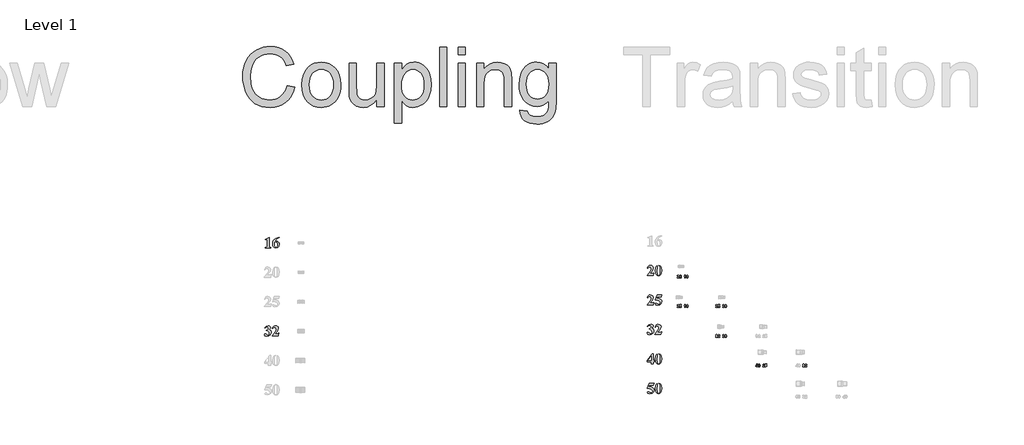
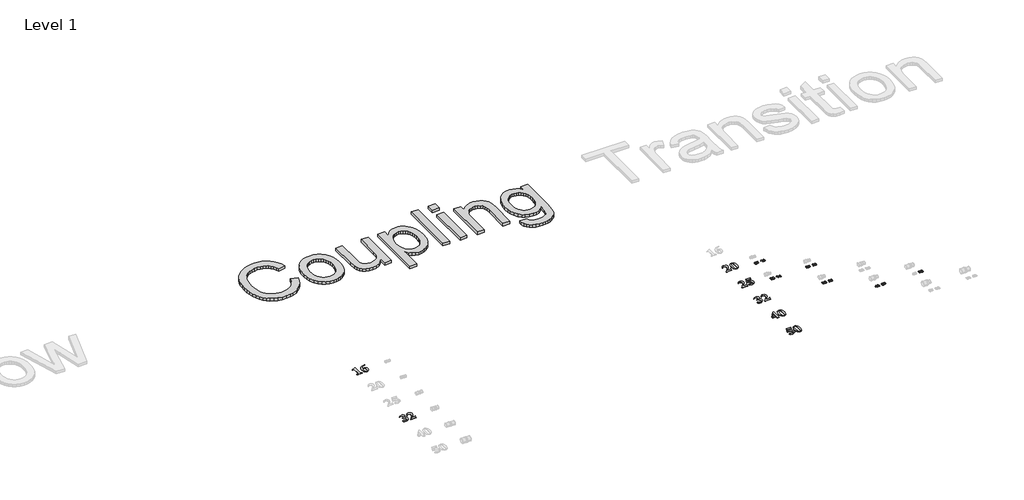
# One storey, part 38 of 57: 19 proxies.
"""IFC4 building model written with IfcOpenShell, lengths in millimetres."""

from ifc_helpers import new_model, si_unit, frame, origin, place, context, project, spatial, polyline, outline, extrude, element, save

model = new_model("IFC4")

# Units and contexts
model_context = context("Model", 3, world=origin())
ifc_project = project(units=[si_unit("LENGTHUNIT", "METRE", prefix="MILLI")], contexts=[model_context])

# Site, building, storey
site = spatial("IfcSite", under=ifc_project)
building = spatial("IfcBuilding", under=site)
storey = spatial("IfcBuildingStorey", under=building, Name="Level 1", Elevation=27.3876384)

# Proxies
placement = place(None, origin())
element("IfcBuildingElementProxy", 1, Name="100mm Arial", ObjectType="100mm Arial", at=placement, inside=storey, context=model_context, shape_type="SweptSolid", body=[
    extrude(outline(polyline([(21088.8058204, 30250.6719885), (21088.8058204, 30166.9155264), (21089.6646513, 30155.2190674), (21093.277194, 30151.0748674), (21102.0836189, 30149.4662635), (21104.510157, 30149.4662635), (21104.510157, 30145.9764109), (21048.6725157, 30145.9764109), (21048.6725157, 30149.4662635), (21051.4807564, 30149.4662635), (21061.1869089, 30150.9385451), (21065.0993608, 30154.9736871), (21066.1217786, 30166.9155264), (21066.1217786, 30219.2633152), (21065.4674312, 30227.9197855), (21063.0408931, 30230.9052453), (21058.9512221, 30232.1594111), (21049.9812104, 30229.732873), (21048.6725157, 30233.2227255), (21086.3247533, 30250.6719885), (21088.8058204, 30250.6719885)])), frame((0.0, 0.0, 27.3876384), z_axis=(0.0, 0.0, 1.0), x_axis=(1.0, 0.0, 0.0)), (0.0, 0.0, 1.0), 2.0),
    extrude(outline(polyline([(21190.0115453, 30250.6719885), (21190.0115453, 30248.9270622), (21167.9954831, 30239.8479926), (21154.8812715, 30226.3520783), (21147.424438, 30206.694393), (21152.9863906, 30209.229989), (21162.9651878, 30210.5386837), (21173.5881082, 30208.4836241), (21182.2820671, 30202.318445), (21188.0791758, 30192.6088845), (21190.0115453, 30179.9206802), (21185.7719197, 30161.6262186), (21173.748287, 30148.7710194), (21157.103326, 30144.2314846), (21139.299625, 30149.4117346), (21126.5398515, 30164.584414), (21121.9594199, 30186.300567), (21124.0621924, 30202.9284876), (21130.37051, 30218.2954264), (21140.5469746, 30231.5323282), (21154.2541886, 30241.7701379), (21170.9298221, 30248.3647324), (21190.0115453, 30250.6719885)]), holes=[polyline([(21146.388388, 30201.0779115), (21144.6434617, 30185.8915999), (21146.8382518, 30165.8385797), (21152.8500682, 30152.2472398), (21159.3117484, 30149.4662635), (21166.08697, 30153.4877733), (21169.0724298, 30169.8328251), (21167.7501029, 30187.3502492), (21163.783122, 30198.4605221), (21154.5949945, 30203.5589786), (21146.388388, 30201.0779115)])]), frame((0.0, 0.0, 27.3876384), z_axis=(0.0, 0.0, 1.0), x_axis=(1.0, 0.0, 0.0)), (0.0, 0.0, 1.0), 2.0),
])
element("IfcBuildingElementProxy", 2, Name="100mm Arial", ObjectType="100mm Arial", at=placement, inside=storey, context=model_context, shape_type="SweptSolid", body=[
    extrude(outline(polyline([(21059.1420734, 29301.5464668), (21059.1420734, 29303.291393), (21071.5746733, 29308.1035726), (21077.5592251, 29314.8924264), (21080.0811889, 29324.1487151), (21075.3780673, 29335.2862525), (21063.667976, 29339.9348452), (21053.6073853, 29337.5014909), (21045.1826631, 29330.2014282), (21043.4377368, 29331.2102137), (21057.8470109, 29345.5922234), (21077.436535, 29350.4044029), (21087.4869015, 29348.9525697), (21095.6083065, 29344.5970701), (21100.9759997, 29338.2989768), (21102.7652307, 29331.0193624), (21098.7573531, 29321.2450487), (21086.1884309, 29312.9702811), (21102.4107926, 29301.6827891), (21106.6027053, 29294.1237139), (21108.0000096, 29284.8606091), (21105.0077337, 29269.0983355), (21096.0309058, 29255.8921062), (21082.0305988, 29246.9459509), (21063.9678852, 29243.9638991), (21052.3668518, 29245.2453294), (21044.3919934, 29249.0896201), (21039.9478842, 29258.3868055), (21042.5243769, 29265.4619363), (21048.4816644, 29268.3928672), (21053.3347406, 29267.3022883), (21062.1956944, 29260.5679634), (21076.4822784, 29254.4334569), (21086.4065467, 29258.8911983), (21090.5507467, 29270.1923224), (21088.5502159, 29280.2017922), (21082.5486238, 29289.4001439), (21072.6959247, 29296.8331209), (21059.1420734, 29301.5464668)])), frame((0.0, 0.0, 27.3876384), z_axis=(0.0, 0.0, 1.0), x_axis=(1.0, 0.0, 0.0)), (0.0, 0.0, 1.0), 2.0),
    extrude(outline(polyline([(21180.3326573, 29245.7088254), (21118.4695674, 29245.7088254), (21118.4695674, 29247.4537517), (21154.2405563, 29292.05843), (21160.3477984, 29314.4425626), (21155.1266517, 29327.6794644), (21142.3805104, 29332.95514), (21131.3929277, 29330.0242091), (21123.1863212, 29321.2314165), (21120.3780805, 29322.240202), (21125.6367158, 29334.740963), (21133.0696928, 29343.5064912), (21142.2475961, 29348.679925), (21152.7410103, 29350.4044029), (21167.2729746, 29346.8191247), (21177.5653133, 29337.0039143), (21181.2869139, 29325.3210875), (21175.7794903, 29305.1726417), (21163.7763059, 29288.6299225), (21142.871271, 29266.6479409), (21164.8464365, 29266.6479409), (21175.3841554, 29267.2477593), (21179.392033, 29269.2925948), (21183.5226007, 29275.3725724), (21186.5216927, 29275.3725724), (21180.3326573, 29245.7088254)])), frame((0.0, 0.0, 27.3876384), z_axis=(0.0, 0.0, 1.0), x_axis=(1.0, 0.0, 0.0)), (0.0, 0.0, 1.0), 2.0),
])
element("IfcBuildingElementProxy", 3, Name="100mm Arial", ObjectType="100mm Arial", at=placement, inside=storey, context=model_context, shape_type="SweptSolid", body=[
    extrude(outline(polyline([(25001.8109742, 29862.2067064), (24939.9478842, 29862.2067064), (24939.9478842, 29863.9516326), (24975.7188732, 29908.556311), (24981.8261152, 29930.9404436), (24976.6049686, 29944.1773454), (24963.8588273, 29949.453021), (24952.8712446, 29946.5220901), (24944.6646381, 29937.7292974), (24941.8563973, 29938.7380829), (24947.1150326, 29951.238844), (24954.5480097, 29960.0043721), (24963.725913, 29965.1778059), (24974.2193272, 29966.9022839), (24988.7512914, 29963.3170056), (24999.0436301, 29953.5017952), (25002.7652307, 29941.8189684), (24997.2578071, 29921.6705227), (24985.2546227, 29905.1278035), (24964.3495878, 29883.1458219), (24986.3247533, 29883.1458219), (24996.8624723, 29883.7456403), (25000.8703498, 29885.7904758), (25005.0009175, 29891.8704533), (25008.0000096, 29891.8704533), (25001.8109742, 29862.2067064)])), frame((0.0, 0.0, 27.3876384), z_axis=(0.0, 0.0, 1.0), x_axis=(1.0, 0.0, 0.0)), (0.0, 0.0, 1.0), 2.0),
    extrude(outline(polyline([(25090.0115453, 29913.682032), (25085.5674362, 29885.1088639), (25078.4514086, 29871.7765365), (25068.3090246, 29863.5154011), (25055.9582182, 29860.4617801), (25042.1760269, 29864.2242774), (25031.2838698, 29875.0210088), (25025.3129502, 29888.6532455), (25021.9594199, 29912.4823951), (25026.7852317, 29943.0731342), (25031.7746303, 29953.259823), (25038.8361289, 29960.7541451), (25055.9582182, 29966.9022839), (25073.0939396, 29960.8359386), (25084.8040309, 29944.5181513), (25090.0115453, 29913.682032)]), holes=[polyline([(25067.3275035, 29913.682032), (25066.9730654, 29945.0361763), (25062.8561299, 29959.2409669), (25055.9036892, 29961.667505), (25050.0690919, 29959.8407853), (25045.7613051, 29950.5163354), (25044.6434617, 29903.8668216), (25046.3611236, 29874.6938351), (25050.0554597, 29867.5096464), (25056.4217142, 29865.6965589), (25062.8561299, 29868.1230971), (25066.9730654, 29881.1827798), (25067.3275035, 29913.682032)])]), frame((0.0, 0.0, 27.3876384), z_axis=(0.0, 0.0, 1.0), x_axis=(1.0, 0.0, 0.0)), (0.0, 0.0, 1.0), 2.0),
])
element("IfcBuildingElementProxy", 4, Name="100mm Arial", ObjectType="100mm Arial", at=placement, inside=storey, context=model_context, shape_type="SweptSolid", body=[
    extrude(outline(polyline([(25001.8109742, 29561.4467064), (24939.9478842, 29561.4467064), (24939.9478842, 29563.1916326), (24975.7188732, 29607.796311), (24981.8261152, 29630.1804436), (24976.6049686, 29643.4173454), (24963.8588273, 29648.693021), (24952.8712446, 29645.7620901), (24944.6646381, 29636.9692974), (24941.8563973, 29637.9780829), (24947.1150326, 29650.478844), (24954.5480097, 29659.2443721), (24963.725913, 29664.4178059), (24974.2193272, 29666.1422839), (24988.7512914, 29662.5570056), (24999.0436301, 29652.7417952), (25002.7652307, 29641.0589684), (24997.2578071, 29620.9105227), (24985.2546227, 29604.3678035), (24964.3495878, 29582.3858219), (24986.3247533, 29582.3858219), (24996.8624723, 29582.9856403), (25000.8703498, 29585.0304758), (25005.0009175, 29591.1104533), (25008.0000096, 29591.1104533), (25001.8109742, 29561.4467064)])), frame((0.0, 0.0, 27.3876384), z_axis=(0.0, 0.0, 1.0), x_axis=(1.0, 0.0, 0.0)), (0.0, 0.0, 1.0), 2.0),
    extrude(outline(polyline([(25041.1536091, 29664.3973576), (25090.0115453, 29664.3973576), (25083.0318402, 29643.4582421), (25038.7543355, 29643.4582421), (25035.5643921, 29634.7336106), (25059.8570378, 29630.9574811), (25077.8243258, 29621.5921345), (25086.9647404, 29610.3387231), (25090.0115453, 29596.6451414), (25084.3132704, 29577.9417127), (25068.5953015, 29564.2549471), (25046.6065038, 29559.7017801), (25026.7852317, 29564.5003274), (25021.9594199, 29572.2161733), (25024.4813837, 29578.0916673), (25030.3568777, 29580.6408956), (25036.4913842, 29579.3322008), (25047.1245288, 29572.4342891), (25055.3038708, 29567.6630063), (25060.729501, 29566.6814852), (25071.5807614, 29571.2482845), (25076.052135, 29582.222235), (25072.6577081, 29594.2595), (25062.4744273, 29603.8156979), (25047.1177127, 29610.0524462), (25028.2029843, 29612.1313622), (25021.9594199, 29612.0495688), (25041.1536091, 29664.3973576)])), frame((0.0, 0.0, 27.3876384), z_axis=(0.0, 0.0, 1.0), x_axis=(1.0, 0.0, 0.0)), (0.0, 0.0, 1.0), 2.0),
])
element("IfcBuildingElementProxy", 5, Name="100mm Arial", ObjectType="100mm Arial", at=placement, inside=storey, context=model_context, shape_type="SweptSolid", body=[
    extrude(outline(polyline([(24959.1420734, 29316.5343477), (24959.1420734, 29318.279274), (24971.5746733, 29323.0914535), (24977.5592251, 29329.8803074), (24980.0811889, 29339.1365961), (24975.3780673, 29350.2741334), (24963.667976, 29354.9227261), (24953.6073853, 29352.4893719), (24945.1826631, 29345.1893092), (24943.4377368, 29346.1980947), (24957.8470109, 29360.5801043), (24977.436535, 29365.3922839), (24987.4869015, 29363.9404507), (24995.6083065, 29359.5849511), (25000.9759997, 29353.2868577), (25002.7652307, 29346.0072434), (24998.7573531, 29336.2329297), (24986.1884309, 29327.958162), (25002.4107926, 29316.6706701), (25006.6027053, 29309.1115948), (25008.0000096, 29299.84849), (25005.0077337, 29284.0862164), (24996.0309058, 29270.8799871), (24982.0305988, 29261.9338318), (24963.9678852, 29258.9517801), (24952.3668518, 29260.2332103), (24944.3919934, 29264.077501), (24939.9478842, 29273.3746864), (24942.5243769, 29280.4498173), (24948.4816644, 29283.3807482), (24953.3347406, 29282.2901692), (24962.1956944, 29275.5558443), (24976.4822784, 29269.4213378), (24986.4065467, 29273.8790792), (24990.5507467, 29285.1802034), (24988.5502159, 29295.1896732), (24982.5486238, 29304.3880248), (24972.6959247, 29311.8210019), (24959.1420734, 29316.5343477)])), frame((0.0, 0.0, 27.3876384), z_axis=(0.0, 0.0, 1.0), x_axis=(1.0, 0.0, 0.0)), (0.0, 0.0, 1.0), 2.0),
    extrude(outline(polyline([(25080.3326573, 29260.6967064), (25018.4695674, 29260.6967064), (25018.4695674, 29262.4416326), (25054.2405563, 29307.046311), (25060.3477984, 29329.4304436), (25055.1266517, 29342.6673454), (25042.3805104, 29347.943021), (25031.3929277, 29345.0120901), (25023.1863212, 29336.2192974), (25020.3780805, 29337.2280829), (25025.6367158, 29349.728844), (25033.0696928, 29358.4943721), (25042.2475961, 29363.6678059), (25052.7410103, 29365.3922839), (25067.2729746, 29361.8070056), (25077.5653133, 29351.9917952), (25081.2869139, 29340.3089684), (25075.7794903, 29320.1605227), (25063.7763059, 29303.6178035), (25042.871271, 29281.6358219), (25064.8464365, 29281.6358219), (25075.3841554, 29282.2356403), (25079.392033, 29284.2804758), (25083.5226007, 29290.3604533), (25086.5216927, 29290.3604533), (25080.3326573, 29260.6967064)])), frame((0.0, 0.0, 27.3876384), z_axis=(0.0, 0.0, 1.0), x_axis=(1.0, 0.0, 0.0)), (0.0, 0.0, 1.0), 2.0),
])
element("IfcBuildingElementProxy", 6, Name="100mm Arial", ObjectType="100mm Arial", at=placement, inside=storey, context=model_context, shape_type="SweptSolid", body=[
    extrude(outline(polyline([(24943.4377368, 28998.5950848), (24992.7046401, 29064.9022839), (25002.7652307, 29064.9022839), (25002.7652307, 28998.5950848), (25011.4898622, 28998.5950848), (25011.4898622, 28982.8907482), (25002.7652307, 28982.8907482), (25002.7652307, 28960.2067064), (24980.0811889, 28960.2067064), (24980.0811889, 28982.8907482), (24943.4377368, 28982.8907482), (24943.4377368, 28998.5950848)]), holes=[polyline([(24948.7270446, 28998.5950848), (24980.0811889, 28998.5950848), (24980.0811889, 29040.773225), (24948.7270446, 28998.5950848)])]), frame((0.0, 0.0, 27.3876384), z_axis=(0.0, 0.0, 1.0), x_axis=(1.0, 0.0, 0.0)), (0.0, 0.0, 1.0), 2.0),
    extrude(outline(polyline([(25090.0115453, 29011.682032), (25085.5674362, 28983.1088639), (25078.4514086, 28969.7765365), (25068.3090246, 28961.5154011), (25055.9582182, 28958.4617801), (25042.1760269, 28962.2242774), (25031.2838698, 28973.0210088), (25025.3129502, 28986.6532455), (25021.9594199, 29010.4823951), (25026.7852317, 29041.0731342), (25031.7746303, 29051.259823), (25038.8361289, 29058.7541451), (25055.9582182, 29064.9022839), (25073.0939396, 29058.8359386), (25084.8040309, 29042.5181513), (25090.0115453, 29011.682032)]), holes=[polyline([(25067.3275035, 29011.682032), (25066.9730654, 29043.0361763), (25062.8561299, 29057.2409669), (25055.9036892, 29059.667505), (25050.0690919, 29057.8407853), (25045.7613051, 29048.5163354), (25044.6434617, 29001.8668216), (25046.3611236, 28972.6938351), (25050.0554597, 28965.5096464), (25056.4217142, 28963.6965589), (25062.8561299, 28966.1230971), (25066.9730654, 28979.1827798), (25067.3275035, 29011.682032)])]), frame((0.0, 0.0, 27.3876384), z_axis=(0.0, 0.0, 1.0), x_axis=(1.0, 0.0, 0.0)), (0.0, 0.0, 1.0), 2.0),
])
element("IfcBuildingElementProxy", 7, Name="100mm Arial", ObjectType="100mm Arial", at=placement, inside=storey, context=model_context, shape_type="SweptSolid", body=[
    extrude(outline(polyline([(24962.631926, 28762.3973576), (25011.4898622, 28762.3973576), (25004.510157, 28741.4582421), (24960.2326524, 28741.4582421), (24957.042709, 28732.7336106), (24981.3353547, 28728.9574811), (24999.3026426, 28719.5921345), (25008.4430573, 28708.3387231), (25011.4898622, 28694.6451414), (25005.7915873, 28675.9417127), (24990.0736184, 28662.2549471), (24968.0848207, 28657.7017801), (24948.2635486, 28662.5003274), (24943.4377368, 28670.2161733), (24945.9597006, 28676.0916673), (24951.8351946, 28678.6408956), (24957.9697011, 28677.3322008), (24968.6028457, 28670.4342891), (24976.7821877, 28665.6630063), (24982.2078178, 28664.6814852), (24993.0590782, 28669.2482845), (24997.5304518, 28680.222235), (24994.1360249, 28692.2595), (24983.9527441, 28701.8156979), (24968.5960295, 28708.0524462), (24949.6813012, 28710.1313622), (24943.4377368, 28710.0495688), (24962.631926, 28762.3973576)])), frame((0.0, 0.0, 27.3876384), z_axis=(0.0, 0.0, 1.0), x_axis=(1.0, 0.0, 0.0)), (0.0, 0.0, 1.0), 2.0),
    extrude(outline(polyline([(25090.0115453, 28710.922032), (25085.5674362, 28682.3488639), (25078.4514086, 28669.0165365), (25068.3090246, 28660.7554011), (25055.9582182, 28657.7017801), (25042.1760269, 28661.4642774), (25031.2838698, 28672.2610088), (25025.3129502, 28685.8932455), (25021.9594199, 28709.7223951), (25026.7852317, 28740.3131342), (25031.7746303, 28750.499823), (25038.8361289, 28757.9941451), (25055.9582182, 28764.1422839), (25073.0939396, 28758.0759386), (25084.8040309, 28741.7581513), (25090.0115453, 28710.922032)]), holes=[polyline([(25067.3275035, 28710.922032), (25066.9730654, 28742.2761763), (25062.8561299, 28756.4809669), (25055.9036892, 28758.907505), (25050.0690919, 28757.0807853), (25045.7613051, 28747.7563354), (25044.6434617, 28701.1068216), (25046.3611236, 28671.9338351), (25050.0554597, 28664.7496464), (25056.4217142, 28662.9365589), (25062.8561299, 28665.3630971), (25066.9730654, 28678.4227798), (25067.3275035, 28710.922032)])]), frame((0.0, 0.0, 27.3876384), z_axis=(0.0, 0.0, 1.0), x_axis=(1.0, 0.0, 0.0)), (0.0, 0.0, 1.0), 2.0),
])
element("IfcBuildingElementProxy", 8, Name="30mm Arial", ObjectType="30mm Arial", at=placement, inside=storey, context=model_context, shape_type="SweptSolid", body=[
    extrude(outline(polyline([(25330.2414218, 29837.5683057), (25324.4113681, 29837.5683057), (25324.4113681, 29859.4461896), (25317.1238009, 29854.5726291), (25317.1238009, 29860.4026828), (25321.9897702, 29863.2607755), (25325.5955977, 29868.1760877), (25330.2414218, 29868.1760877), (25330.2414218, 29837.5683057)])), frame((0.0, 0.0, 27.3876384), z_axis=(0.0, 0.0, 1.0), x_axis=(1.0, 0.0, 0.0)), (0.0, 0.0, 1.0), 2.0),
    extrude(outline(polyline([(25357.9341769, 29860.0534869), (25352.1041232, 29859.4310072), (25351.0717179, 29862.0006337), (25348.9006302, 29862.8318718), (25345.9096911, 29861.2187385), (25344.3686743, 29854.4435784), (25349.6977078, 29857.0018181), (25355.8579794, 29854.2689805), (25358.4200147, 29847.216741), (25355.8010453, 29839.8570573), (25349.0676369, 29837.0824679), (25341.825617, 29840.6655218), (25338.9865024, 29852.4091326), (25341.9508721, 29864.4791657), (25349.6521605, 29868.1760877), (25355.1557919, 29866.0960946), (25357.9341769, 29860.0534869)]), holes=[polyline([(25344.8165561, 29847.3457917), (25346.0766979, 29843.7058037), (25348.9537687, 29842.4266838), (25351.5499645, 29843.4742716), (25352.589961, 29846.9130924), (25351.4702567, 29850.5151243), (25348.6728937, 29851.6576022), (25345.9362604, 29850.5644672), (25344.8165561, 29847.3457917)])]), frame((0.0, 0.0, 27.3876384), z_axis=(0.0, 0.0, 1.0), x_axis=(1.0, 0.0, 0.0)), (0.0, 0.0, 1.0), 2.0),
])
element("IfcBuildingElementProxy", 9, Name="30mm Arial", ObjectType="30mm Arial", at=placement, inside=storey, context=model_context, shape_type="SweptSolid", body=[
    extrude(outline(polyline([(25265.0997999, 29843.3983595), (25265.0997999, 29837.5683057), (25245.6662875, 29837.5683057), (25247.5261354, 29843.2882868), (25253.6370641, 29850.4581901), (25258.1462462, 29855.3469331), (25259.2697462, 29858.8540748), (25258.3246398, 29861.8032621), (25255.7170572, 29862.8318718), (25253.105679, 29861.8184445), (25251.982179, 29858.4593316), (25246.1521253, 29858.9907167), (25249.2797062, 29866.0391605), (25255.8461078, 29868.1760877), (25262.6326547, 29865.7810592), (25265.0997999, 29859.8257504), (25264.4241817, 29855.9694128), (25262.2834588, 29852.1358488), (25258.6586533, 29848.3098761), (25255.3299052, 29844.9925148), (25254.2367701, 29843.3983595), (25265.0997999, 29843.3983595)])), frame((0.0, 0.0, 27.3876384), z_axis=(0.0, 0.0, 1.0), x_axis=(1.0, 0.0, 0.0)), (0.0, 0.0, 1.0), 2.0),
    extrude(outline(polyline([(25278.7032585, 29868.1760877), (25285.4973967, 29865.018142), (25288.4200147, 29852.6216866), (25285.4822142, 29840.1948664), (25278.7032585, 29837.0824679), (25271.6624059, 29840.498515), (25268.9865024, 29852.6824164), (25271.9243029, 29865.0636893), (25278.7032585, 29868.1760877)]), holes=[polyline([(25278.7032585, 29862.8318718), (25276.7599073, 29862.1904141), (25275.4390358, 29859.8864801), (25274.8165561, 29852.6216866), (25275.3707148, 29845.6036076), (25276.7712941, 29843.0605504), (25278.7032585, 29842.4266838), (25280.6466098, 29843.0681416), (25281.9674813, 29845.3720756), (25282.589961, 29852.6216866), (25282.0358023, 29859.63597), (25280.635223, 29862.1904141), (25278.7032585, 29862.8318718)])]), frame((0.0, 0.0, 27.3876384), z_axis=(0.0, 0.0, 1.0), x_axis=(1.0, 0.0, 0.0)), (0.0, 0.0, 1.0), 2.0),
])
element("IfcBuildingElementProxy", 10, Name="30mm Arial", ObjectType="30mm Arial", at=placement, inside=storey, context=model_context, shape_type="SweptSolid", body=[
    extrude(outline(polyline([(25330.2414218, 29536.8083057), (25324.4113681, 29536.8083057), (25324.4113681, 29558.6861896), (25317.1238009, 29553.8126291), (25317.1238009, 29559.6426828), (25321.9897702, 29562.5007755), (25325.5955977, 29567.4160877), (25330.2414218, 29567.4160877), (25330.2414218, 29536.8083057)])), frame((0.0, 0.0, 27.3876384), z_axis=(0.0, 0.0, 1.0), x_axis=(1.0, 0.0, 0.0)), (0.0, 0.0, 1.0), 2.0),
    extrude(outline(polyline([(25357.9341769, 29559.2934869), (25352.1041232, 29558.6710072), (25351.0717179, 29561.2406337), (25348.9006302, 29562.0718718), (25345.9096911, 29560.4587385), (25344.3686743, 29553.6835784), (25349.6977078, 29556.2418181), (25355.8579794, 29553.5089805), (25358.4200147, 29546.456741), (25355.8010453, 29539.0970573), (25349.0676369, 29536.3224679), (25341.825617, 29539.9055218), (25338.9865024, 29551.6491326), (25341.9508721, 29563.7191657), (25349.6521605, 29567.4160877), (25355.1557919, 29565.3360946), (25357.9341769, 29559.2934869)]), holes=[polyline([(25344.8165561, 29546.5857917), (25346.0766979, 29542.9458037), (25348.9537687, 29541.6666838), (25351.5499645, 29542.7142716), (25352.589961, 29546.1530924), (25351.4702567, 29549.7551243), (25348.6728937, 29550.8976022), (25345.9362604, 29549.8044672), (25344.8165561, 29546.5857917)])]), frame((0.0, 0.0, 27.3876384), z_axis=(0.0, 0.0, 1.0), x_axis=(1.0, 0.0, 0.0)), (0.0, 0.0, 1.0), 2.0),
])
element("IfcBuildingElementProxy", 11, Name="30mm Arial", ObjectType="30mm Arial", at=placement, inside=storey, context=model_context, shape_type="SweptSolid", body=[
    extrude(outline(polyline([(25265.0997999, 29542.6383595), (25265.0997999, 29536.8083057), (25245.6662875, 29536.8083057), (25247.5261354, 29542.5282868), (25253.6370641, 29549.6981901), (25258.1462462, 29554.5869331), (25259.2697462, 29558.0940748), (25258.3246398, 29561.0432621), (25255.7170572, 29562.0718718), (25253.105679, 29561.0584445), (25251.982179, 29557.6993316), (25246.1521253, 29558.2307167), (25249.2797062, 29565.2791605), (25255.8461078, 29567.4160877), (25262.6326547, 29565.0210592), (25265.0997999, 29559.0657504), (25264.4241817, 29555.2094128), (25262.2834588, 29551.3758488), (25258.6586533, 29547.5498761), (25255.3299052, 29544.2325148), (25254.2367701, 29542.6383595), (25265.0997999, 29542.6383595)])), frame((0.0, 0.0, 27.3876384), z_axis=(0.0, 0.0, 1.0), x_axis=(1.0, 0.0, 0.0)), (0.0, 0.0, 1.0), 2.0),
    extrude(outline(polyline([(25268.9865024, 29545.4243357), (25274.3307183, 29546.0392241), (25275.8185965, 29542.8433223), (25278.6728937, 29541.6666838), (25281.796679, 29542.9154388), (25283.0757988, 29546.6768863), (25281.8877736, 29550.2068016), (25278.7943531, 29551.38344), (25274.5280899, 29548.954251), (25269.4723402, 29549.7057813), (25272.8732048, 29566.9302499), (25287.4483391, 29566.9302499), (25287.4483391, 29561.1001962), (25277.5873498, 29561.1001962), (25276.4107114, 29555.5358351), (25280.1683632, 29556.7276559), (25286.3627953, 29553.968249), (25288.9058525, 29546.8059369), (25286.7879033, 29540.2547177), (25278.7639883, 29536.3224679), (25272.0799228, 29538.7896131), (25268.9865024, 29545.4243357)])), frame((0.0, 0.0, 27.3876384), z_axis=(0.0, 0.0, 1.0), x_axis=(1.0, 0.0, 0.0)), (0.0, 0.0, 1.0), 2.0),
])
element("IfcBuildingElementProxy", 12, Name="30mm Arial", ObjectType="30mm Arial", at=placement, inside=storey, context=model_context, shape_type="SweptSolid", body=[
    extrude(outline(polyline([(25727.5383234, 29542.6383595), (25727.5383234, 29536.8083057), (25708.104811, 29536.8083057), (25709.9646589, 29542.5282868), (25716.0755876, 29549.6981901), (25720.5847698, 29554.5869331), (25721.7082697, 29558.0940748), (25720.7631634, 29561.0432621), (25718.1555807, 29562.0718718), (25715.5442025, 29561.0584445), (25714.4207026, 29557.6993316), (25708.5906489, 29558.2307167), (25711.7182298, 29565.2791605), (25718.2846314, 29567.4160877), (25725.0711783, 29565.0210592), (25727.5383234, 29559.0657504), (25726.8627052, 29555.2094128), (25724.7219824, 29551.3758488), (25721.0971768, 29547.5498761), (25717.7684287, 29544.2325148), (25716.6752937, 29542.6383595), (25727.5383234, 29542.6383595)])), frame((0.0, 0.0, 27.3876384), z_axis=(0.0, 0.0, 1.0), x_axis=(1.0, 0.0, 0.0)), (0.0, 0.0, 1.0), 2.0),
    extrude(outline(polyline([(25741.1417821, 29567.4160877), (25747.9359202, 29564.258142), (25750.8585383, 29551.8616866), (25747.9207378, 29539.4348664), (25741.1417821, 29536.3224679), (25734.1009295, 29539.738515), (25731.4250259, 29551.9224164), (25734.3628264, 29564.3036893), (25741.1417821, 29567.4160877)]), holes=[polyline([(25741.1417821, 29562.0718718), (25739.1984309, 29561.4304141), (25737.8775593, 29559.1264801), (25737.2550796, 29551.8616866), (25737.8092384, 29544.8436076), (25739.2098177, 29542.3005504), (25741.1417821, 29541.6666838), (25743.0851333, 29542.3081416), (25744.4060049, 29544.6120756), (25745.0284846, 29551.8616866), (25744.4743258, 29558.87597), (25743.0737465, 29561.4304141), (25741.1417821, 29562.0718718)])]), frame((0.0, 0.0, 27.3876384), z_axis=(0.0, 0.0, 1.0), x_axis=(1.0, 0.0, 0.0)), (0.0, 0.0, 1.0), 2.0),
])
element("IfcBuildingElementProxy", 13, Name="30mm Arial", ObjectType="30mm Arial", at=placement, inside=storey, context=model_context, shape_type="SweptSolid", body=[
    extrude(outline(polyline([(25657.5383234, 29542.6383595), (25657.5383234, 29536.8083057), (25638.104811, 29536.8083057), (25639.9646589, 29542.5282868), (25646.0755876, 29549.6981901), (25650.5847698, 29554.5869331), (25651.7082697, 29558.0940748), (25650.7631634, 29561.0432621), (25648.1555807, 29562.0718718), (25645.5442025, 29561.0584445), (25644.4207026, 29557.6993316), (25638.5906489, 29558.2307167), (25641.7182298, 29565.2791605), (25648.2846314, 29567.4160877), (25655.0711783, 29565.0210592), (25657.5383234, 29559.0657504), (25656.8627052, 29555.2094128), (25654.7219824, 29551.3758488), (25651.0971768, 29547.5498761), (25647.7684287, 29544.2325148), (25646.6752937, 29542.6383595), (25657.5383234, 29542.6383595)])), frame((0.0, 0.0, 27.3876384), z_axis=(0.0, 0.0, 1.0), x_axis=(1.0, 0.0, 0.0)), (0.0, 0.0, 1.0), 2.0),
    extrude(outline(polyline([(25661.4250259, 29545.4243357), (25666.7692418, 29546.0392241), (25668.2571201, 29542.8433223), (25671.1114172, 29541.6666838), (25674.2352025, 29542.9154388), (25675.5143224, 29546.6768863), (25674.3262971, 29550.2068016), (25671.2328767, 29551.38344), (25666.9666134, 29548.954251), (25661.9108637, 29549.7057813), (25665.3117284, 29566.9302499), (25679.8868627, 29566.9302499), (25679.8868627, 29561.1001962), (25670.0258734, 29561.1001962), (25668.8492349, 29555.5358351), (25672.6068867, 29556.7276559), (25678.8013188, 29553.968249), (25681.3443761, 29546.8059369), (25679.2264269, 29540.2547177), (25671.2025118, 29536.3224679), (25664.5184463, 29538.7896131), (25661.4250259, 29545.4243357)])), frame((0.0, 0.0, 27.3876384), z_axis=(0.0, 0.0, 1.0), x_axis=(1.0, 0.0, 0.0)), (0.0, 0.0, 1.0), 2.0),
])
element("IfcBuildingElementProxy", 14, Name="30mm Arial", ObjectType="30mm Arial", at=placement, inside=storey, context=model_context, shape_type="SweptSolid", body=[
    extrude(outline(polyline([(25727.5383234, 29236.8883595), (25727.5383234, 29231.0583057), (25708.104811, 29231.0583057), (25709.9646589, 29236.7782868), (25716.0755876, 29243.9481901), (25720.5847698, 29248.8369331), (25721.7082697, 29252.3440748), (25720.7631634, 29255.2932621), (25718.1555807, 29256.3218718), (25715.5442025, 29255.3084445), (25714.4207026, 29251.9493316), (25708.5906489, 29252.4807167), (25711.7182298, 29259.5291605), (25718.2846314, 29261.6660877), (25725.0711783, 29259.2710592), (25727.5383234, 29253.3157504), (25726.8627052, 29249.4594128), (25724.7219824, 29245.6258488), (25721.0971768, 29241.7998761), (25717.7684287, 29238.4825148), (25716.6752937, 29236.8883595), (25727.5383234, 29236.8883595)])), frame((0.0, 0.0, 27.3876384), z_axis=(0.0, 0.0, 1.0), x_axis=(1.0, 0.0, 0.0)), (0.0, 0.0, 1.0), 2.0),
    extrude(outline(polyline([(25741.1417821, 29261.6660877), (25747.9359202, 29258.508142), (25750.8585383, 29246.1116866), (25747.9207378, 29233.6848664), (25741.1417821, 29230.5724679), (25734.1009295, 29233.988515), (25731.4250259, 29246.1724164), (25734.3628264, 29258.5536893), (25741.1417821, 29261.6660877)]), holes=[polyline([(25741.1417821, 29256.3218718), (25739.1984309, 29255.6804141), (25737.8775593, 29253.3764801), (25737.2550796, 29246.1116866), (25737.8092384, 29239.0936076), (25739.2098177, 29236.5505504), (25741.1417821, 29235.9166838), (25743.0851333, 29236.5581416), (25744.4060049, 29238.8620756), (25745.0284846, 29246.1116866), (25744.4743258, 29253.12597), (25743.0737465, 29255.6804141), (25741.1417821, 29256.3218718)])]), frame((0.0, 0.0, 27.3876384), z_axis=(0.0, 0.0, 1.0), x_axis=(1.0, 0.0, 0.0)), (0.0, 0.0, 1.0), 2.0),
])
element("IfcBuildingElementProxy", 15, Name="30mm Arial", ObjectType="30mm Arial", at=placement, inside=storey, context=model_context, shape_type="SweptSolid", body=[
    extrude(outline(polyline([(25638.104811, 29239.6136059), (25643.9348648, 29240.2892241), (25645.2481451, 29237.0401838), (25647.8367497, 29235.9166838), (25650.592361, 29237.2033949), (25651.7082697, 29240.6687849), (25650.6872512, 29243.9405989), (25648.1935368, 29245.1476022), (25645.878216, 29244.7149029), (25646.3868275, 29249.5201425), (25649.2601026, 29250.4766357), (25650.2507563, 29253.1791085), (25649.5106127, 29255.4678601), (25647.5406923, 29256.3218718), (25645.4644947, 29255.3312182), (25644.4207026, 29252.4351694), (25638.5906489, 29253.3081592), (25640.196191, 29257.9425964), (25643.1947212, 29260.6716385), (25647.5027362, 29261.6660877), (25654.0463642, 29258.9104764), (25656.08081, 29253.8091794), (25651.7158609, 29247.3794197), (25655.9517593, 29244.8781141), (25657.5383234, 29240.1829471), (25654.725778, 29233.3850134), (25647.7228814, 29230.5724679), (25641.1375017, 29233.0737735), (25638.104811, 29239.6136059)])), frame((0.0, 0.0, 27.3876384), z_axis=(0.0, 0.0, 1.0), x_axis=(1.0, 0.0, 0.0)), (0.0, 0.0, 1.0), 2.0),
    extrude(outline(polyline([(25680.8585383, 29236.8883595), (25680.8585383, 29231.0583057), (25661.4250259, 29231.0583057), (25663.2848738, 29236.7782868), (25669.3958025, 29243.9481901), (25673.9049846, 29248.8369331), (25675.0284846, 29252.3440748), (25674.0833782, 29255.2932621), (25671.4757956, 29256.3218718), (25668.8644174, 29255.3084445), (25667.7409174, 29251.9493316), (25661.9108637, 29252.4807167), (25665.0384446, 29259.5291605), (25671.6048463, 29261.6660877), (25678.3913932, 29259.2710592), (25680.8585383, 29253.3157504), (25680.1829201, 29249.4594128), (25678.0421972, 29245.6258488), (25674.4173917, 29241.7998761), (25671.0886436, 29238.4825148), (25669.9955085, 29236.8883595), (25680.8585383, 29236.8883595)])), frame((0.0, 0.0, 27.3876384), z_axis=(0.0, 0.0, 1.0), x_axis=(1.0, 0.0, 0.0)), (0.0, 0.0, 1.0), 2.0),
])
element("IfcBuildingElementProxy", 16, Name="30mm Arial", ObjectType="30mm Arial", at=placement, inside=storey, context=model_context, shape_type="SweptSolid", body=[
    extrude(outline(polyline([(26137.3037173, 28936.3967584), (26137.3037173, 28930.5667047), (26117.8702049, 28930.5667047), (26119.7300528, 28936.2866858), (26125.8409815, 28943.456589), (26130.3501637, 28948.345332), (26131.4736636, 28951.8524737), (26130.5285572, 28954.801661), (26127.9209746, 28955.8302708), (26125.3095964, 28954.8168435), (26124.1860965, 28951.4577305), (26118.3560427, 28951.9891156), (26121.4836236, 28959.0375594), (26128.0500253, 28961.1744867), (26134.8365722, 28958.7794581), (26137.3037173, 28952.8241493), (26136.6280991, 28948.9678117), (26134.4873763, 28945.1342477), (26130.8625707, 28941.308275), (26127.5338226, 28937.9909137), (26126.4406875, 28936.3967584), (26137.3037173, 28936.3967584)])), frame((0.0, 0.0, 27.3876384), z_axis=(0.0, 0.0, 1.0), x_axis=(1.0, 0.0, 0.0)), (0.0, 0.0, 1.0), 2.0),
    extrude(outline(polyline([(26141.1904198, 28939.1827346), (26146.5346357, 28939.797623), (26148.022514, 28936.6017212), (26150.8768111, 28935.4250828), (26154.0005964, 28936.6738378), (26155.2797163, 28940.4352852), (26154.091691, 28943.9652005), (26150.9982706, 28945.1418389), (26146.7320073, 28942.7126499), (26141.6762576, 28943.4641803), (26145.0771223, 28960.6886489), (26159.6522566, 28960.6886489), (26159.6522566, 28954.8585951), (26149.7912673, 28954.8585951), (26148.6146288, 28949.294234), (26152.3722806, 28950.4860549), (26158.5667127, 28947.7266479), (26161.10977, 28940.5643358), (26158.9918208, 28934.0131166), (26150.9679057, 28930.0808669), (26144.2838402, 28932.548012), (26141.1904198, 28939.1827346)])), frame((0.0, 0.0, 27.3876384), z_axis=(0.0, 0.0, 1.0), x_axis=(1.0, 0.0, 0.0)), (0.0, 0.0, 1.0), 2.0),
])
element("IfcBuildingElementProxy", 17, Name="30mm Arial", ObjectType="30mm Arial", at=placement, inside=storey, context=model_context, shape_type="SweptSolid", body=[
    extrude(outline(polyline([(26058.5586367, 28930.5667047), (26058.5586367, 28936.8825962), (26046.8985293, 28936.8825962), (26046.8985293, 28941.7182006), (26059.3329408, 28960.6886489), (26064.3886905, 28960.6886489), (26064.3886905, 28941.7409743), (26068.2753929, 28941.7409743), (26068.2753929, 28936.8825962), (26064.3886905, 28936.8825962), (26064.3886905, 28930.5667047), (26058.5586367, 28930.5667047)]), holes=[polyline([(26058.5586367, 28941.7409743), (26058.5586367, 28951.6854669), (26052.0453736, 28941.7409743), (26058.5586367, 28941.7409743)])]), frame((0.0, 0.0, 27.3876384), z_axis=(0.0, 0.0, 1.0), x_axis=(1.0, 0.0, 0.0)), (0.0, 0.0, 1.0), 2.0),
    extrude(outline(polyline([(26080.907176, 28961.1744867), (26087.7013141, 28958.0165409), (26090.6239322, 28945.6200855), (26087.6861317, 28933.1932653), (26080.907176, 28930.0808669), (26073.8663234, 28933.496914), (26071.1904198, 28945.6808153), (26074.1282203, 28958.0620882), (26080.907176, 28961.1744867)]), holes=[polyline([(26080.907176, 28955.8302708), (26078.9638247, 28955.188813), (26077.6429532, 28952.884879), (26077.0204735, 28945.6200855), (26077.5746323, 28938.6020066), (26078.9752116, 28936.0589493), (26080.907176, 28935.4250828), (26082.8505272, 28936.0665405), (26084.1713988, 28938.3704745), (26084.7938785, 28945.6200855), (26084.2397197, 28952.6343689), (26082.8391404, 28955.188813), (26080.907176, 28955.8302708)])]), frame((0.0, 0.0, 27.3876384), z_axis=(0.0, 0.0, 1.0), x_axis=(1.0, 0.0, 0.0)), (0.0, 0.0, 1.0), 2.0),
])
element("IfcBuildingElementProxy", 18, Name="30mm Arial", ObjectType="30mm Arial", at=placement, inside=storey, context=model_context, shape_type="SweptSolid", body=[
    extrude(outline(polyline([(26525.0647567, 28939.1220048), (26530.8948104, 28939.797623), (26532.2080908, 28936.5485827), (26534.7966953, 28935.4250828), (26537.5523067, 28936.7117938), (26538.6682154, 28940.1771838), (26537.6471969, 28943.4489978), (26535.1534825, 28944.6560011), (26532.8381617, 28944.2233018), (26533.3467731, 28949.0285414), (26536.2200483, 28949.9850346), (26537.2107019, 28952.6875074), (26536.4705584, 28954.976259), (26534.5006379, 28955.8302708), (26532.4244404, 28954.8396171), (26531.3806482, 28951.9435683), (26525.5505945, 28952.8165581), (26527.1561367, 28957.4509953), (26530.1546669, 28960.1800374), (26534.4626818, 28961.1744867), (26541.0063098, 28958.4188753), (26543.0407557, 28953.3175783), (26538.6758066, 28946.8878186), (26542.911705, 28944.386513), (26544.4982691, 28939.691346), (26541.6857236, 28932.8934123), (26534.6828271, 28930.0808669), (26528.0974474, 28932.5821725), (26525.0647567, 28939.1220048)])), frame((0.0, 0.0, 27.3876384), z_axis=(0.0, 0.0, 1.0), x_axis=(1.0, 0.0, 0.0)), (0.0, 0.0, 1.0), 2.0),
    extrude(outline(polyline([(26567.8184839, 28936.3967584), (26567.8184839, 28930.5667047), (26548.3849716, 28930.5667047), (26550.2448194, 28936.2866858), (26556.3557481, 28943.456589), (26560.8649303, 28948.345332), (26561.9884302, 28951.8524737), (26561.0433239, 28954.801661), (26558.4357413, 28955.8302708), (26555.824363, 28954.8168435), (26554.7008631, 28951.4577305), (26548.8708094, 28951.9891156), (26551.9983903, 28959.0375594), (26558.5647919, 28961.1744867), (26565.3513388, 28958.7794581), (26567.8184839, 28952.8241493), (26567.1428657, 28948.9678117), (26565.0021429, 28945.1342477), (26561.3773374, 28941.308275), (26558.0485892, 28937.9909137), (26556.9554542, 28936.3967584), (26567.8184839, 28936.3967584)])), frame((0.0, 0.0, 27.3876384), z_axis=(0.0, 0.0, 1.0), x_axis=(1.0, 0.0, 0.0)), (0.0, 0.0, 1.0), 2.0),
])
element("IfcBuildingElementProxy", 19, Name="600mm Arial", ObjectType="600mm Arial", at=placement, inside=storey, context=model_context, shape_type="SweptSolid", body=[
    extrude(outline(polyline([(21270.5428492, 31802.1230332), (21345.8850818, 31782.6988638), (21330.976664, 31735.8444932), (21311.1202333, 31694.9038257), (21286.3157898, 31659.8768612), (21256.5633334, 31630.7635998), (21222.5342489, 31607.8767412), (21184.8999208, 31591.528985), (21143.6603491, 31581.7203313), (21098.8155339, 31578.4507801), (21052.8716712, 31580.9247865), (21011.4251659, 31588.3468058), (20974.476018, 31600.7168379), (20942.0242275, 31618.0348828), (20913.6237375, 31640.0434232), (20888.828491, 31666.4849416), (20867.6384881, 31697.359438), (20850.0537287, 31732.6669125), (20836.2443583, 31770.8806547), (20826.3805224, 31810.4739545), (20820.4622208, 31851.4468117), (20818.4894536, 31893.7992264), (20820.7197382, 31939.2418498), (20827.4105919, 31981.686235), (20838.5620149, 32021.132382), (20854.1740071, 32057.5802906), (20873.8970806, 32090.4275543), (20897.3817474, 32119.0717661), (20924.6280077, 32143.5129262), (20955.6358614, 32163.7510344), (20989.3522462, 32179.620544), (21024.7241001, 32190.955908), (21061.7514229, 32197.7571264), (21100.4342147, 32200.0241992), (21143.5269919, 32197.0903403), (21183.0421167, 32188.2887635), (21218.9795891, 32173.619469), (21251.3394091, 32153.0824566), (21279.5881478, 32127.2203523), (21303.1923763, 32096.5757821), (21322.1520946, 32061.148746), (21336.4673028, 32020.9392439), (21261.1250702, 32002.9866025), (21249.2608758, 32032.6148987), (21235.0054485, 32057.9297785), (21218.3587882, 32078.9312419), (21199.320895, 32095.6192889), (21177.7814041, 32108.3342104), (21153.6299512, 32117.4162971), (21126.866536, 32122.8655492), (21097.4911587, 32124.6819666), (21063.6920004, 32122.6678126), (21032.7807157, 32116.6253509), (21004.7573048, 32106.5545812), (20979.6217674, 32092.4555038), (20957.691402, 32074.9627149), (20939.2835067, 32054.7108111), (20924.3980814, 32031.6997923), (20913.0351263, 32005.9296585), (20898.6325462, 31950.7841474), (20893.8316862, 31893.9463792), (20899.515463, 31824.3431057), (20906.620184, 31793.0731361), (20916.5667935, 31764.1576113), (20929.5162397, 31738.1713468), (20945.6294711, 31715.6891584), (20964.9064876, 31696.711046), (20987.3472893, 31681.2370096), (21011.8620258, 31669.230261), (21037.3608466, 31660.6540119), (21063.8437517, 31655.5082625), (21091.3107412, 31653.7930127), (21124.0660343, 31656.1290634), (21154.2001683, 31663.1372154), (21181.713143, 31674.8174688), (21206.6049585, 31691.1698234), (21228.2870036, 31712.1207031), (21246.170667, 31737.5965312), (21260.2559489, 31767.5973079), (21270.5428492, 31802.1230332)])), frame((0.0, 0.0, 27.3876384), z_axis=(0.0, 0.0, 1.0), x_axis=(1.0, 0.0, 0.0)), (0.0, 0.0, 1.0), 30.0),
    extrude(outline(polyline([(21421.2273145, 31809.1863675), (21425.3016076, 31866.5115794), (21437.5244868, 31915.9089343), (21457.8959523, 31957.3784322), (21486.416004, 31990.9200731), (21515.1291937, 32012.3583964), (21546.8222276, 32027.6714844), (21581.4951057, 32036.8593373), (21619.1478279, 32039.9219549), (21660.7138948, 32036.1925511), (21698.2976391, 32025.00434), (21731.8990609, 32006.3573213), (21761.51816, 31980.2514952), (21785.6926056, 31947.5697785), (21802.9600667, 31909.1950879), (21813.3205434, 31865.1274234), (21816.7740357, 31815.366785), (21815.2473254, 31775.0377213), (21810.6671945, 31739.2520002), (21803.0336431, 31708.0096218), (21792.3466712, 31681.310586), (21778.7396359, 31658.2489834), (21762.3458945, 31637.9189046), (21743.165447, 31620.3203497), (21721.1982933, 31605.4533186), (21697.2997592, 31593.639708), (21672.3251703, 31585.2014147), (21646.2745265, 31580.1384388), (21619.1478279, 31578.4507801), (21576.9747556, 31582.1663883), (21539.0415234, 31593.3132127), (21505.3481312, 31611.8912535), (21475.8945789, 31637.9005105), (21451.9776507, 31670.8995255), (21434.8941306, 31710.44684), (21424.6440185, 31756.542454), (21421.2273145, 31809.1863675)]), holes=[polyline([(21496.5695471, 31809.3335203), (21498.7492479, 31772.7890426), (21505.2883504, 31741.1465925), (21516.1868545, 31714.40617), (21531.4447602, 31692.567775), (21550.0044069, 31675.6038165), (21570.8081337, 31663.4867033), (21593.8559407, 31656.2164354), (21619.1478279, 31653.7930127), (21644.3109563, 31656.2302309), (21667.2667928, 31663.5418856), (21688.0153374, 31675.7279767), (21706.5565899, 31692.7885042), (21721.8144957, 31714.8430298), (21732.7129998, 31742.0111152), (21739.2521022, 31774.2927602), (21741.4318031, 31811.6879651), (21739.2383067, 31847.0736145), (21732.6578175, 31877.8883301), (21721.6903355, 31904.1321119), (21706.3358607, 31925.80496), (21687.7256303, 31942.7689185), (21666.9908813, 31954.8860317), (21644.1316139, 31962.1562996), (21619.1478279, 31964.5797223), (21593.8559407, 31962.1654967), (21570.8081337, 31954.9228199), (21550.0044069, 31942.8516919), (21531.4447602, 31925.9521128), (21516.1868545, 31904.1780972), (21505.2883504, 31877.4836599), (21498.7492479, 31845.8688009), (21496.5695471, 31809.3335203)])]), frame((0.0, 0.0, 27.3876384), z_axis=(0.0, 0.0, 1.0), x_axis=(1.0, 0.0, 0.0)), (0.0, 0.0, 1.0), 30.0),
    extrude(outline(polyline([(22184.0674197, 31587.8685592), (22184.0674197, 31663.9465558), (22156.8073638, 31626.5421539), (22125.0591476, 31599.824724), (22088.8227711, 31583.7942661), (22048.0982342, 31578.4507801), (22011.4020052, 31582.2031765), (21977.244162, 31593.4603655), (21948.5861545, 31610.3829373), (21928.389433, 31631.1314818), (21914.7961933, 31656.3313985), (21905.9486313, 31686.6080867), (21901.5340474, 31756.6528186), (21901.5340474, 32030.5041758), (21976.87628, 32030.5041758), (21976.87628, 31792.1166429), (21978.0167142, 31744.4391363), (21981.4380167, 31715.3028823), (21992.4192943, 31689.6799014), (22011.2364583, 31670.2005497), (22036.6387101, 31657.894897), (22067.3752508, 31653.7930127), (22099.8776251, 31657.9868675), (22130.283072, 31670.5684317), (22155.3542299, 31690.3788771), (22171.8537374, 31716.2593755), (22181.0139991, 31751.7048057), (22184.0674197, 31800.2100468), (22184.0674197, 32030.5041758), (22259.4096523, 32030.5041758), (22259.4096523, 31587.8685592), (22184.0674197, 31587.8685592)])), frame((0.0, 0.0, 27.3876384), z_axis=(0.0, 0.0, 1.0), x_axis=(1.0, 0.0, 0.0)), (0.0, 0.0, 1.0), 30.0),
    extrude(outline(polyline([(22363.0052221, 31418.3485358), (22363.0052221, 32030.5041758), (22438.3474547, 32030.5041758), (22438.3474547, 31956.6334712), (22462.921972, 31993.0721828), (22490.4395452, 32019.0998339), (22522.5188552, 32034.7164246), (22560.7785827, 32039.9219549), (22587.0545542, 32038.100939), (22611.730239, 32032.6378914), (22634.8056372, 32023.532812), (22656.2807487, 32010.7857008), (22675.6865239, 31994.7276518), (22692.5539134, 31975.6897585), (22706.8829171, 31953.6720211), (22718.673535, 31928.6744395), (22734.4556726, 31873.1610465), (22739.7163852, 31812.5708818), (22733.7750909, 31748.1363504), (22726.3484732, 31718.471266), (22715.9512083, 31690.5076358), (22702.7258506, 31664.9766254), (22686.8149543, 31642.6094001), (22668.2185194, 31623.4059599), (22646.936546, 31607.3663049), (22624.0128992, 31594.7157628), (22600.4914441, 31585.6796613), (22576.3721808, 31580.2580004), (22551.6551092, 31578.4507801), (22517.0190194, 31583.2884284), (22486.0985377, 31597.8013731), (22459.6294281, 31619.7087459), (22438.3474547, 31646.7296784), (22438.3474547, 31418.3485358), (22363.0052221, 31418.3485358)]), holes=[polyline([(22438.3474547, 31805.6547003), (22440.3846013, 31769.3447474), (22446.4960409, 31738.111566), (22456.6817737, 31711.9551562), (22470.9417995, 31690.8755178), (22488.1080931, 31674.6519219), (22507.0126291, 31663.063639), (22527.6554076, 31656.1106693), (22550.0364285, 31653.7930127), (22572.7393461, 31656.1934427), (22593.7592036, 31663.3947328), (22613.096001, 31675.3968829), (22630.7497382, 31692.199893), (22645.4604195, 31714.0428865), (22655.968049, 31741.1649866), (22662.2726267, 31773.5661933), (22664.3741526, 31811.2465067), (22662.3232104, 31847.2437599), (22656.1703841, 31878.421759), (22645.9156734, 31904.7805039), (22631.5590786, 31926.3199948), (22614.3513983, 31943.0586255), (22595.5434313, 31955.0147904), (22575.1351776, 31962.1884893), (22553.1266372, 31964.5797223), (22531.1870747, 31962.036738), (22510.5442963, 31954.4077851), (22491.1983019, 31941.6928636), (22473.1490915, 31923.8919736), (22457.9233754, 31901.2442383), (22447.0478639, 31873.9887809), (22440.522557, 31842.1256016), (22438.3474547, 31805.6547003)])]), frame((0.0, 0.0, 27.3876384), z_axis=(0.0, 0.0, 1.0), x_axis=(1.0, 0.0, 0.0)), (0.0, 0.0, 1.0), 30.0),
    extrude(outline(polyline([(22824.4763969, 31587.8685592), (22824.4763969, 32190.6064201), (22899.8186295, 32190.6064201), (22899.8186295, 31587.8685592), (22824.4763969, 31587.8685592)])), frame((0.0, 0.0, 27.3876384), z_axis=(0.0, 0.0, 1.0), x_axis=(1.0, 0.0, 0.0)), (0.0, 0.0, 1.0), 30.0),
    extrude(outline(polyline([(23012.8319784, 32115.2641875), (23012.8319784, 32190.6064201), (23088.174211, 32190.6064201), (23088.174211, 32115.2641875), (23012.8319784, 32115.2641875)])), frame((0.0, 0.0, 27.3876384), z_axis=(0.0, 0.0, 1.0), x_axis=(1.0, 0.0, 0.0)), (0.0, 0.0, 1.0), 30.0),
    extrude(outline(polyline([(23012.8319784, 31587.8685592), (23012.8319784, 32030.5041758), (23088.174211, 32030.5041758), (23088.174211, 31587.8685592), (23012.8319784, 31587.8685592)])), frame((0.0, 0.0, 27.3876384), z_axis=(0.0, 0.0, 1.0), x_axis=(1.0, 0.0, 0.0)), (0.0, 0.0, 1.0), 30.0),
    extrude(outline(polyline([(23201.1875599, 31587.8685592), (23201.1875599, 32030.5041758), (23276.5297925, 32030.5041758), (23276.5297925, 31968.7000006), (23302.7045965, 31999.8596056), (23334.140113, 32022.1164663), (23370.836342, 32035.4705827), (23412.7932835, 32039.9219549), (23449.930971, 32036.3351054), (23483.9416614, 32025.5745571), (23512.3053632, 32008.9830791), (23532.5020848, 31987.9034407), (23546.2056891, 31962.3908244), (23555.0900393, 31932.5004123), (23559.0631648, 31859.6597772), (23559.0631648, 31587.8685592), (23483.7209322, 31587.8685592), (23483.7209322, 31849.5062342), (23481.5504284, 31888.4649375), (23475.0389171, 31916.1664517), (23463.02757, 31936.0136853), (23444.3575587, 31951.4095468), (23420.4268349, 31961.2871784), (23392.6333502, 31964.5797223), (23369.7556886, 31962.7311152), (23348.5059049, 31957.1852942), (23328.883999, 31947.942259), (23310.8899709, 31935.0020098), (23295.8573929, 31916.8930186), (23285.1198371, 31892.1437574), (23278.6773037, 31860.7542262), (23276.5297925, 31822.7244249), (23276.5297925, 31587.8685592), (23201.1875599, 31587.8685592)])), frame((0.0, 0.0, 27.3876384), z_axis=(0.0, 0.0, 1.0), x_axis=(1.0, 0.0, 0.0)), (0.0, 0.0, 1.0), 30.0),
    extrude(outline(polyline([(23643.8231765, 31550.1974429), (23719.1654091, 31540.7796638), (23727.4795422, 31517.2352161), (23743.5927736, 31501.0484083), (23775.2674134, 31488.4668441), (23816.7277142, 31484.2729894), (23860.9471301, 31489.0186671), (23878.8078009, 31494.9507643), (23893.8357804, 31503.2557003), (23916.6444641, 31526.064384), (23930.62398, 31556.5250132), (23934.7074701, 31588.935417), (23935.7743279, 31644.3752337), (23910.7031699, 31619.6535636), (23882.7257442, 31601.9952278), (23851.8420507, 31591.4002263), (23818.0520894, 31587.8685592), (23776.7435399, 31591.9796405), (23740.3738061, 31604.3128844), (23708.9428882, 31624.8682909), (23682.450786, 31653.6458599), (23661.4309285, 31688.1715852), (23646.4167446, 31725.9714602), (23637.4082342, 31767.0454849), (23634.4053974, 31811.3936595), (23639.7948687, 31872.2229474), (23655.9632824, 31928.1594047), (23667.9470383, 31953.382314), (23682.3404214, 31975.5609998), (23699.1434315, 31994.6954621), (23718.3560687, 32010.7857008), (23739.6702318, 32023.532812), (23762.7778197, 32032.6378914), (23787.6788322, 32038.100939), (23814.3732695, 32039.9219549), (23849.6071676, 32035.8016765), (23881.58531, 32023.4408415), (23910.3076968, 32002.8394498), (23935.7743279, 31973.9975013), (23935.7743279, 32030.5041758), (24011.1165605, 32030.5041758), (24011.1165605, 31648.3483592), (24005.9662126, 31560.1118627), (23999.5282777, 31527.2921902), (23990.5151688, 31502.0049015), (23978.7107552, 31481.6104434), (23963.8989064, 31463.4692625), (23946.0796223, 31447.5813589), (23925.2529028, 31433.9467324), (23901.6302802, 31423.0022431), (23875.4232866, 31415.1847507), (23846.6319219, 31410.4942552), (23815.2561863, 31408.9307567), (23778.3438266, 31411.1334502), (23745.1562721, 31417.7415305), (23715.6935228, 31428.7549978), (23689.9555787, 31444.1738519), (23669.1656475, 31464.016487), (23654.5469367, 31488.3012972), (23646.0994464, 31517.0282825), (23643.8231765, 31550.1974429)]), holes=[polyline([(23709.74763, 31816.5440074), (23711.7571854, 31779.2913569), (23717.7858516, 31747.4373746), (23727.8336286, 31720.9820606), (23741.9005164, 31699.9254149), (23759.0024307, 31683.8627673), (23778.1552871, 31672.3894476), (23799.3590855, 31665.5054557), (23822.6138262, 31663.2107918), (23845.6386405, 31665.4916602), (23866.7412715, 31672.3342653), (23885.921719, 31683.7386071), (23903.1799831, 31699.7046857), (23917.440009, 31720.5543978), (23927.6257417, 31746.6096401), (23933.7371813, 31777.8704127), (23935.7743279, 31814.3367154), (23933.6774005, 31849.2809064), (23927.3866184, 31879.6541637), (23916.9019815, 31905.4564871), (23902.2234899, 31926.6878768), (23884.5927453, 31943.2655592), (23865.2513494, 31955.1067609), (23844.1993022, 31962.2114819), (23821.4366038, 31964.5797223), (23799.0555829, 31962.2482701), (23778.4128044, 31955.2539137), (23759.5082684, 31943.596653), (23742.3419748, 31927.2764879), (23728.081949, 31906.366995), (23717.8962162, 31880.9417507), (23711.7847766, 31851.0007548), (23709.74763, 31816.5440074)])]), frame((0.0, 0.0, 27.3876384), z_axis=(0.0, 0.0, 1.0), x_axis=(1.0, 0.0, 0.0)), (0.0, 0.0, 1.0), 30.0),
])

save(model, "model.ifc")
